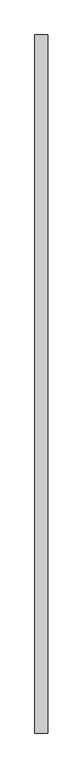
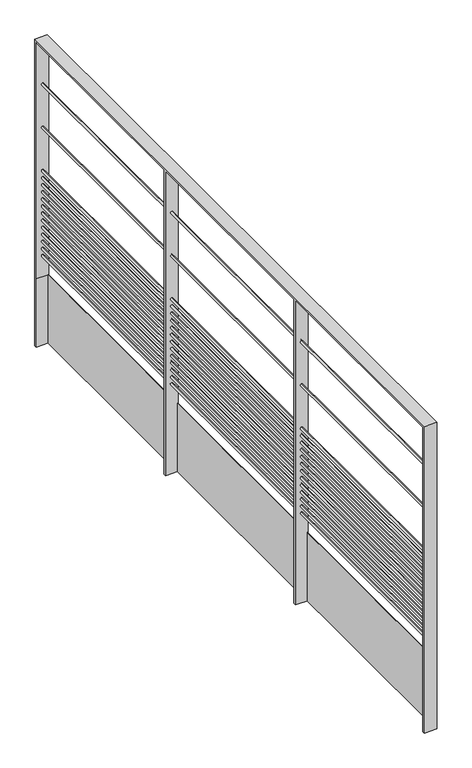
"""IFC4 building model written with IfcOpenShell, lengths in millimetres: railing geometry, Garde-corps 1 : Garde-corps 1."""

import ifcopenshell
import ifcopenshell.guid

model = None  # the IFC model being written
_history = None  # IfcOwnerHistory: only IFC2X3 demands one
_inside = {}  # id of a spatial element -> (the spatial element, [elements in it])
_under = {}  # id of a project, library or spatial element -> (it, [spatial elements below it])
_declared = {}  # id of a project -> (the project, [libraries it declares])
_typed = {}  # id of a type object -> (the type object, [elements of that type])
_made_of = {}  # id of a material, layer set ... -> (it, [elements and type objects made of it])


def new_model(schema):
    """Start an empty IFC model of exactly this schema.

    Asked for "IFC4X3", IfcOpenShell would pick the latest addendum, in which some entities
    have other attributes; the version numbers below select the first issue.
    IFC2X3 requires an IfcOwnerHistory on every rooted entity: one is made here for all.
    """
    global model, _history
    if schema == "IFC4X3":
        model = ifcopenshell.file(schema_version=(4, 3, 0, 0))
    else:
        model = ifcopenshell.file(schema=schema)
    _inside.clear()
    _under.clear()
    _declared.clear()
    _typed.clear()
    _made_of.clear()
    _history = None
    if model.schema == "IFC2X3":
        org = make("IfcOrganization", Name="unknown")
        user = make(
            "IfcPersonAndOrganization",
            ThePerson=make("IfcPerson", FamilyName="unknown"),
            TheOrganization=org,
        )
        app = make(
            "IfcApplication",
            ApplicationDeveloper=org,
            Version="unknown",
            ApplicationFullName="unknown",
            ApplicationIdentifier="unknown",
        )
        _history = make(
            "IfcOwnerHistory",
            OwningUser=user,
            OwningApplication=app,
            ChangeAction="ADDED",
            CreationDate=0,
        )
    return model


def make(cls, **values):
    """One entity of the class cls with the attributes given. An attribute that is None is left unset."""
    return model.create_entity(
        cls, **{name: value for name, value in values.items() if value is not None}
    )


def rooted(cls, **values):
    """An entity with a GlobalId (a new one), such as an element, a storey or a relation."""
    return make(cls, GlobalId=ifcopenshell.guid.new(), OwnerHistory=_history, **values)


def si_unit(unit_type, name, prefix=None):
    """IfcSIUnit, for example si_unit("LENGTHUNIT", "METRE", prefix="MILLI")."""
    return make("IfcSIUnit", UnitType=unit_type, Prefix=prefix, Name=name)


def assignment(units):
    """IfcUnitAssignment: the units of a project."""
    return None if units is None else make("IfcUnitAssignment", Units=units)


def point(xyz):
    """IfcCartesianPoint."""
    return None if xyz is None else make("IfcCartesianPoint", Coordinates=xyz)


def direction(xyz):
    """IfcDirection."""
    return None if xyz is None else make("IfcDirection", DirectionRatios=xyz)


def frame(location, z_axis=None, x_axis=None):
    """IfcAxis2Placement3D, a coordinate frame: its origin and axes. An axis left out is left unset."""
    return make(
        "IfcAxis2Placement3D",
        Location=point(location),
        Axis=direction(z_axis),
        RefDirection=direction(x_axis),
    )


def frame_2d(location, x_axis=None):
    """IfcAxis2Placement2D, a coordinate frame in the plane: its origin and x axis."""
    return make(
        "IfcAxis2Placement2D", Location=point(location), RefDirection=direction(x_axis)
    )


def origin():
    """The frame at (0, 0, 0) with its axes left unset."""
    return frame((0.0, 0.0, 0.0))


def place(relative_to, where):
    """IfcLocalPlacement: puts the frame where relative to a parent placement (None: the world)."""
    return make(
        "IfcLocalPlacement", PlacementRelTo=relative_to, RelativePlacement=where
    )


def context(
    kind, dimensions, precision=None, world=None, true_north=None, identifier=None
):
    """IfcGeometricRepresentationContext, for example the 3D "Model" context."""
    return make(
        "IfcGeometricRepresentationContext",
        ContextIdentifier=identifier,
        ContextType=kind,
        CoordinateSpaceDimension=dimensions,
        Precision=precision,
        WorldCoordinateSystem=world,
        TrueNorth=true_north,
    )


def project(units=None, contexts=None):
    """IfcProject with its units and contexts."""
    return rooted(
        "IfcProject",
        Name="project",
        RepresentationContexts=contexts,
        UnitsInContext=assignment(units),
    )


def spatial(cls, under=None, at=None, **own):
    """A site, building, storey or space (cls), placed at a placement, below another one or the project."""
    s = rooted(cls, ObjectPlacement=at, **own)
    if under is not None:
        _under.setdefault(under.id(), (under, []))[1].append(s)
    return s


def polyline(points):
    """IfcPolyline through the points."""
    return make("IfcPolyline", Points=[point(p) for p in points])


def circle_curve(where, radius):
    """IfcCircle in the frame where."""
    return make("IfcCircle", Position=where, Radius=radius)


def trimmed(basis, trim1, trim2, sense, master):
    """IfcTrimmedCurve: the piece of a basis curve between two trims."""
    return make(
        "IfcTrimmedCurve",
        BasisCurve=basis,
        Trim1=trim1,
        Trim2=trim2,
        SenseAgreement=sense,
        MasterRepresentation=master,
    )


def segment(curve, same_sense, transition):
    """IfcCompositeCurveSegment."""
    return make(
        "IfcCompositeCurveSegment",
        Transition=transition,
        SameSense=same_sense,
        ParentCurve=curve,
    )


def composite_curve(segments, self_intersect=None):
    """IfcCompositeCurve: segments joined end to end."""
    return make("IfcCompositeCurve", Segments=segments, SelfIntersect=self_intersect)


def outline(outer, holes=None, kind="AREA"):
    """IfcArbitraryClosedProfileDef: a profile drawn as a closed curve; with holes, ...WithVoids."""
    if holes is None:
        return make("IfcArbitraryClosedProfileDef", ProfileType=kind, OuterCurve=outer)
    return make(
        "IfcArbitraryProfileDefWithVoids",
        ProfileType=kind,
        OuterCurve=outer,
        InnerCurves=holes,
    )


def extrude(swept, where, along, depth):
    """IfcExtrudedAreaSolid: the profile swept, set in the frame where, extruded along a direction by depth."""
    return make(
        "IfcExtrudedAreaSolid",
        SweptArea=swept,
        Position=where,
        ExtrudedDirection=direction(along),
        Depth=depth,
    )


def shape(context_of_items, identifier, shape_type, items):
    """IfcShapeRepresentation: the items that make up one representation, for example the "Body"."""
    return make(
        "IfcShapeRepresentation",
        ContextOfItems=context_of_items,
        RepresentationIdentifier=identifier,
        RepresentationType=shape_type,
        Items=items,
    )


def source(mapping_origin, context_of_items, identifier, shape_type, items):
    """IfcRepresentationMap: a shape defined once, which mapped items show again and again."""
    return make(
        "IfcRepresentationMap",
        MappingOrigin=mapping_origin,
        MappedRepresentation=shape(context_of_items, identifier, shape_type, items),
    )


def transform(
    local_origin,
    x_axis=None,
    y_axis=None,
    z_axis=None,
    scale=None,
    scale2=None,
    scale3=None,
    uniform=True,
):
    """IfcCartesianTransformationOperator3D, or its non-uniform kind. x_axis, y_axis, z_axis: its Axis1, 2, 3."""
    if uniform:
        return make(
            "IfcCartesianTransformationOperator3D",
            Axis1=direction(x_axis),
            Axis2=direction(y_axis),
            LocalOrigin=point(local_origin),
            Scale=scale,
            Axis3=direction(z_axis),
        )
    return make(
        "IfcCartesianTransformationOperator3DnonUniform",
        Axis1=direction(x_axis),
        Axis2=direction(y_axis),
        LocalOrigin=point(local_origin),
        Scale=scale,
        Axis3=direction(z_axis),
        Scale2=scale2,
        Scale3=scale3,
    )


def mapped(mapping_source, mapping_target):
    """IfcMappedItem: shows the shape of a source again, moved by a transform."""
    return make(
        "IfcMappedItem", MappingSource=mapping_source, MappingTarget=mapping_target
    )


def made_of(thing, what):
    """Note that an element or type object is made of a material, layer set ...; save() writes the relation."""
    if what is not None:
        _made_of.setdefault(what.id(), (what, []))[1].append(thing)
    return thing


def element(
    cls,
    number,
    at=None,
    inside=None,
    cuts=None,
    type_object=None,
    material=None,
    context=None,
    identifier="Body",
    shape_type=None,
    held_by="IfcProductDefinitionShape",
    body=None,
    shapes=None,
    **own,
):
    """One element of the class cls, such as IfcWall. Its Tag is "e" and its number.

    at: its placement. inside: the storey or other place that contains it. cuts: it is an
    opening in that element (IfcRelVoidsElement). A single representation is given by context,
    identifier, shape_type and body (its items); several are given by shapes. held_by: the class
    of the entity that holds the representations. save() writes the other relations.
    """
    e = rooted(cls, Tag="e%d" % number, ObjectPlacement=at, **own)
    if body is not None:
        shapes = [shape(context, identifier, shape_type, body)]
    if shapes is not None:
        e.Representation = make(held_by, Representations=shapes)
    if inside is not None:
        _inside.setdefault(inside.id(), (inside, []))[1].append(e)
    if cuts is not None:
        rooted(
            "IfcRelVoidsElement", RelatingBuildingElement=cuts, RelatedOpeningElement=e
        )
    if type_object is not None:
        _typed.setdefault(type_object.id(), (type_object, []))[1].append(e)
    return made_of(e, material)


def aggregate(whole, parts):
    """IfcRelAggregates: a whole, such as a stair, and the parts it consists of."""
    return rooted("IfcRelAggregates", RelatingObject=whole, RelatedObjects=parts)


def save(model, path):
    """Write the relations noted so far, then the file.

    IfcRelAggregates (storeys below a building ...), IfcRelContainedInSpatialStructure (elements
    in a storey), IfcRelDefinesByType, IfcRelAssociatesMaterial and IfcRelDeclares: one each for
    every whole, place, type object, material and project.
    """
    for whole, parts in _under.values():
        aggregate(whole, parts)
    for where, things in _inside.values():
        rooted(
            "IfcRelContainedInSpatialStructure",
            RelatedElements=things,
            RelatingStructure=where,
        )
    for kind, things in _typed.values():
        rooted("IfcRelDefinesByType", RelatedObjects=things, RelatingType=kind)
    for what, things in _made_of.values():
        rooted("IfcRelAssociatesMaterial", RelatedObjects=things, RelatingMaterial=what)
    for by, libraries in _declared.values():
        rooted("IfcRelDeclares", RelatingContext=by, RelatedDefinitions=libraries)
    model.write(path)


def railing_a013820c(model_context):
    return source(origin(), model_context, "Body", "SweptSolid", [
        extrude(outline(composite_curve([segment(trimmed(circle_curve(frame_2d((6623.33, 10648.0743178)), 5.0), [point((6618.33, 10648.0743178))], [point((6628.33, 10648.0743178))], False, "CARTESIAN"), True, "CONTINUOUS"), segment(trimmed(circle_curve(frame_2d((6623.33, 10648.0743178)), 5.0), [point((6628.33, 10648.0743178))], [point((6618.33, 10648.0743178))], False, "CARTESIAN"), True, "CONTINUOUS")], self_intersect=False)), frame((0.0, 2202.0685723, 0.0), z_axis=(0.0, 1.0, 0.0), x_axis=(0.0, 0.0, 1.0)), (0.0, 0.0, 1.0), 2689.5147089),
        extrude(outline(composite_curve([segment(trimmed(circle_curve(frame_2d((6806.66, 10648.0743178)), 5.0), [point((6801.66, 10648.0743178))], [point((6811.66, 10648.0743178))], False, "CARTESIAN"), True, "CONTINUOUS"), segment(trimmed(circle_curve(frame_2d((6806.66, 10648.0743178)), 5.0), [point((6811.66, 10648.0743178))], [point((6801.66, 10648.0743178))], False, "CARTESIAN"), True, "CONTINUOUS")], self_intersect=False)), frame((0.0, 2202.0685723, 0.0), z_axis=(0.0, 1.0, 0.0), x_axis=(0.0, 0.0, 1.0)), (0.0, 0.0, 1.0), 2689.5147089),
        extrude(outline(composite_curve([segment(trimmed(circle_curve(frame_2d((6440.0, 10648.0743178)), 5.0), [point((6435.0, 10648.0743178))], [point((6445.0, 10648.0743178))], False, "CARTESIAN"), True, "CONTINUOUS"), segment(trimmed(circle_curve(frame_2d((6440.0, 10648.0743178)), 5.0), [point((6445.0, 10648.0743178))], [point((6435.0, 10648.0743178))], False, "CARTESIAN"), True, "CONTINUOUS")], self_intersect=False)), frame((0.0, 2202.0685723, 0.0), z_axis=(0.0, 1.0, 0.0), x_axis=(0.0, 0.0, 1.0)), (0.0, 0.0, 1.0), 2689.5147089),
        extrude(outline(composite_curve([segment(trimmed(circle_curve(frame_2d((6410.0, 10648.0743178)), 5.0), [point((6405.0, 10648.0743178))], [point((6415.0, 10648.0743178))], False, "CARTESIAN"), True, "CONTINUOUS"), segment(trimmed(circle_curve(frame_2d((6410.0, 10648.0743178)), 5.0), [point((6415.0, 10648.0743178))], [point((6405.0, 10648.0743178))], False, "CARTESIAN"), True, "CONTINUOUS")], self_intersect=False)), frame((0.0, 2202.0685723, 0.0), z_axis=(0.0, 1.0, 0.0), x_axis=(0.0, 0.0, 1.0)), (0.0, 0.0, 1.0), 2689.5147089),
        extrude(outline(composite_curve([segment(trimmed(circle_curve(frame_2d((6380.0, 10648.0743178)), 5.0), [point((6375.0, 10648.0743178))], [point((6385.0, 10648.0743178))], False, "CARTESIAN"), True, "CONTINUOUS"), segment(trimmed(circle_curve(frame_2d((6380.0, 10648.0743178)), 5.0), [point((6385.0, 10648.0743178))], [point((6375.0, 10648.0743178))], False, "CARTESIAN"), True, "CONTINUOUS")], self_intersect=False)), frame((0.0, 2202.0685723, 0.0), z_axis=(0.0, 1.0, 0.0), x_axis=(0.0, 0.0, 1.0)), (0.0, 0.0, 1.0), 2689.5147089),
        extrude(outline(composite_curve([segment(trimmed(circle_curve(frame_2d((6350.0, 10648.0743178)), 5.0), [point((6345.0, 10648.0743178))], [point((6355.0, 10648.0743178))], False, "CARTESIAN"), True, "CONTINUOUS"), segment(trimmed(circle_curve(frame_2d((6350.0, 10648.0743178)), 5.0), [point((6355.0, 10648.0743178))], [point((6345.0, 10648.0743178))], False, "CARTESIAN"), True, "CONTINUOUS")], self_intersect=False)), frame((0.0, 2202.0685723, 0.0), z_axis=(0.0, 1.0, 0.0), x_axis=(0.0, 0.0, 1.0)), (0.0, 0.0, 1.0), 2689.5147089),
        extrude(outline(composite_curve([segment(trimmed(circle_curve(frame_2d((6320.0, 10648.0743178)), 5.0), [point((6315.0, 10648.0743178))], [point((6325.0, 10648.0743178))], False, "CARTESIAN"), True, "CONTINUOUS"), segment(trimmed(circle_curve(frame_2d((6320.0, 10648.0743178)), 5.0), [point((6325.0, 10648.0743178))], [point((6315.0, 10648.0743178))], False, "CARTESIAN"), True, "CONTINUOUS")], self_intersect=False)), frame((0.0, 2202.0685723, 0.0), z_axis=(0.0, 1.0, 0.0), x_axis=(0.0, 0.0, 1.0)), (0.0, 0.0, 1.0), 2689.5147089),
        extrude(outline(composite_curve([segment(trimmed(circle_curve(frame_2d((6290.0, 10648.0743178)), 5.0), [point((6285.0, 10648.0743178))], [point((6295.0, 10648.0743178))], False, "CARTESIAN"), True, "CONTINUOUS"), segment(trimmed(circle_curve(frame_2d((6290.0, 10648.0743178)), 5.0), [point((6295.0, 10648.0743178))], [point((6285.0, 10648.0743178))], False, "CARTESIAN"), True, "CONTINUOUS")], self_intersect=False)), frame((0.0, 2202.0685723, 0.0), z_axis=(0.0, 1.0, 0.0), x_axis=(0.0, 0.0, 1.0)), (0.0, 0.0, 1.0), 2689.5147089),
        extrude(outline(composite_curve([segment(trimmed(circle_curve(frame_2d((6260.0, 10648.0743178)), 5.0), [point((6255.0, 10648.0743178))], [point((6265.0, 10648.0743178))], False, "CARTESIAN"), True, "CONTINUOUS"), segment(trimmed(circle_curve(frame_2d((6260.0, 10648.0743178)), 5.0), [point((6265.0, 10648.0743178))], [point((6255.0, 10648.0743178))], False, "CARTESIAN"), True, "CONTINUOUS")], self_intersect=False)), frame((0.0, 2202.0685723, 0.0), z_axis=(0.0, 1.0, 0.0), x_axis=(0.0, 0.0, 1.0)), (0.0, 0.0, 1.0), 2689.5147089),
        extrude(outline(composite_curve([segment(trimmed(circle_curve(frame_2d((6230.0, 10648.0743178)), 5.0), [point((6225.0, 10648.0743178))], [point((6235.0, 10648.0743178))], False, "CARTESIAN"), True, "CONTINUOUS"), segment(trimmed(circle_curve(frame_2d((6230.0, 10648.0743178)), 5.0), [point((6235.0, 10648.0743178))], [point((6225.0, 10648.0743178))], False, "CARTESIAN"), True, "CONTINUOUS")], self_intersect=False)), frame((0.0, 2202.0685723, 0.0), z_axis=(0.0, 1.0, 0.0), x_axis=(0.0, 0.0, 1.0)), (0.0, 0.0, 1.0), 2689.5147089),
        extrude(outline(composite_curve([segment(trimmed(circle_curve(frame_2d((6200.0, 10648.0743178)), 5.0), [point((6195.0, 10648.0743178))], [point((6205.0, 10648.0743178))], False, "CARTESIAN"), True, "CONTINUOUS"), segment(trimmed(circle_curve(frame_2d((6200.0, 10648.0743178)), 5.0), [point((6205.0, 10648.0743178))], [point((6195.0, 10648.0743178))], False, "CARTESIAN"), True, "CONTINUOUS")], self_intersect=False)), frame((0.0, 2202.0685723, 0.0), z_axis=(0.0, 1.0, 0.0), x_axis=(0.0, 0.0, 1.0)), (0.0, 0.0, 1.0), 2689.5147089),
        extrude(outline(composite_curve([segment(trimmed(circle_curve(frame_2d((6170.0, 10648.0743178)), 5.0), [point((6165.0, 10648.0743178))], [point((6175.0, 10648.0743178))], False, "CARTESIAN"), True, "CONTINUOUS"), segment(trimmed(circle_curve(frame_2d((6170.0, 10648.0743178)), 5.0), [point((6175.0, 10648.0743178))], [point((6165.0, 10648.0743178))], False, "CARTESIAN"), True, "CONTINUOUS")], self_intersect=False)), frame((0.0, 2202.0685723, 0.0), z_axis=(0.0, 1.0, 0.0), x_axis=(0.0, 0.0, 1.0)), (0.0, 0.0, 1.0), 2689.5147089),
        extrude(outline(composite_curve([segment(trimmed(circle_curve(frame_2d((6140.0, 10648.0743178)), 5.0), [point((6135.0, 10648.0743178))], [point((6145.0, 10648.0743178))], False, "CARTESIAN"), True, "CONTINUOUS"), segment(trimmed(circle_curve(frame_2d((6140.0, 10648.0743178)), 5.0), [point((6145.0, 10648.0743178))], [point((6135.0, 10648.0743178))], False, "CARTESIAN"), True, "CONTINUOUS")], self_intersect=False)), frame((0.0, 2202.0685723, 0.0), z_axis=(0.0, 1.0, 0.0), x_axis=(0.0, 0.0, 1.0)), (0.0, 0.0, 1.0), 2689.5147089),
        extrude(outline(composite_curve([segment(trimmed(circle_curve(frame_2d((6110.0, 10648.0743178)), 5.0), [point((6105.0, 10648.0743178))], [point((6115.0, 10648.0743178))], False, "CARTESIAN"), True, "CONTINUOUS"), segment(trimmed(circle_curve(frame_2d((6110.0, 10648.0743178)), 5.0), [point((6115.0, 10648.0743178))], [point((6105.0, 10648.0743178))], False, "CARTESIAN"), True, "CONTINUOUS")], self_intersect=False)), frame((0.0, 2202.0685723, 0.0), z_axis=(0.0, 1.0, 0.0), x_axis=(0.0, 0.0, 1.0)), (0.0, 0.0, 1.0), 2689.5147089),
        extrude(outline(composite_curve([segment(trimmed(circle_curve(frame_2d((6080.0, 10648.0743178)), 5.0), [point((6075.0, 10648.0743178))], [point((6085.0, 10648.0743178))], False, "CARTESIAN"), True, "CONTINUOUS"), segment(trimmed(circle_curve(frame_2d((6080.0, 10648.0743178)), 5.0), [point((6085.0, 10648.0743178))], [point((6075.0, 10648.0743178))], False, "CARTESIAN"), True, "CONTINUOUS")], self_intersect=False)), frame((0.0, 2202.0685723, 0.0), z_axis=(0.0, 1.0, 0.0), x_axis=(0.0, 0.0, 1.0)), (0.0, 0.0, 1.0), 2689.5147089),
        extrude(outline(polyline([(10673.0743178, 2202.0685723), (10670.0743178, 2202.0685723), (10670.0743178, 4891.5832812), (10673.0743178, 4891.5832812), (10673.0743178, 2202.0685723)])), frame((0.0, 0.0, 5700.0), z_axis=(0.0, 0.0, 1.0), x_axis=(1.0, 0.0, 0.0)), (0.0, 0.0, 1.0), 290.0),
        extrude(outline(polyline([(4901.5832812, 5990.0), (4901.5832812, 5700.0), (4891.5832812, 5700.0), (4891.5832812, 5990.0), (4891.5832812, 6990.0), (4003.2832812, 6990.0), (4003.2832812, 5700.0), (3993.2832812, 5700.0), (3993.2832812, 6990.0), (3099.9832812, 6990.0), (3099.9832812, 5700.0), (3089.9832812, 5700.0), (3089.9832812, 6990.0), (2202.0685723, 6990.0), (2202.0685723, 5700.0), (2192.0685723, 5700.0), (2192.0685723, 7000.0), (4901.5832812, 7000.0), (4901.5832812, 5990.0)])), frame((10623.0743178, 0.0, 0.0), z_axis=(1.0, 0.0, 0.0), x_axis=(0.0, 1.0, 0.0)), (0.0, 0.0, 1.0), 50.0),
    ])


if __name__ == "__main__":
    model = new_model("IFC4")
    model_context = context("Model", 3, world=origin())
    ifc_project = project(units=[si_unit("LENGTHUNIT", "METRE", prefix="MILLI")], contexts=[model_context])
    site = spatial("IfcSite", under=ifc_project)
    building = spatial("IfcBuilding", under=site)
    placement = place(None, origin())
    railing_shape = railing_a013820c(model_context)
    element("IfcRailing", 1, ObjectType="Garde-corps 1 : Garde-corps 1", at=placement, inside=building, context=model_context, shape_type="MappedRepresentation", body=[
        mapped(railing_shape, transform((0.0, 0.0, 0.0), x_axis=(1.0, 0.0, 0.0), y_axis=(0.0, 1.0, 0.0), z_axis=(0.0, 0.0, 1.0))),
    ])
    save(model, "model.ifc")
